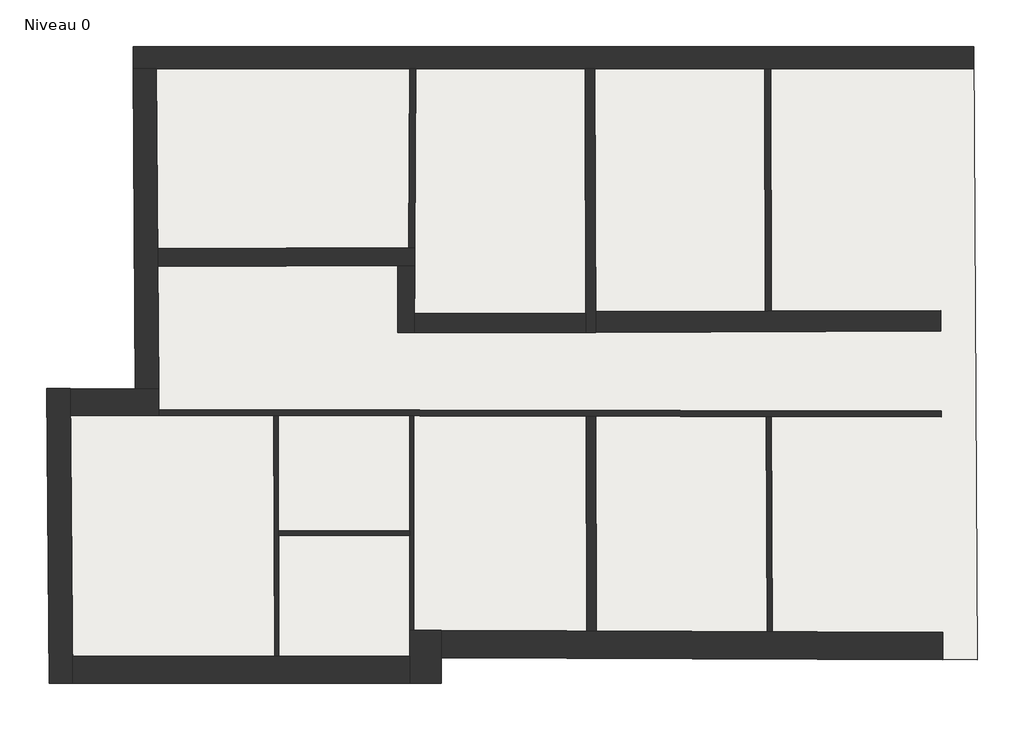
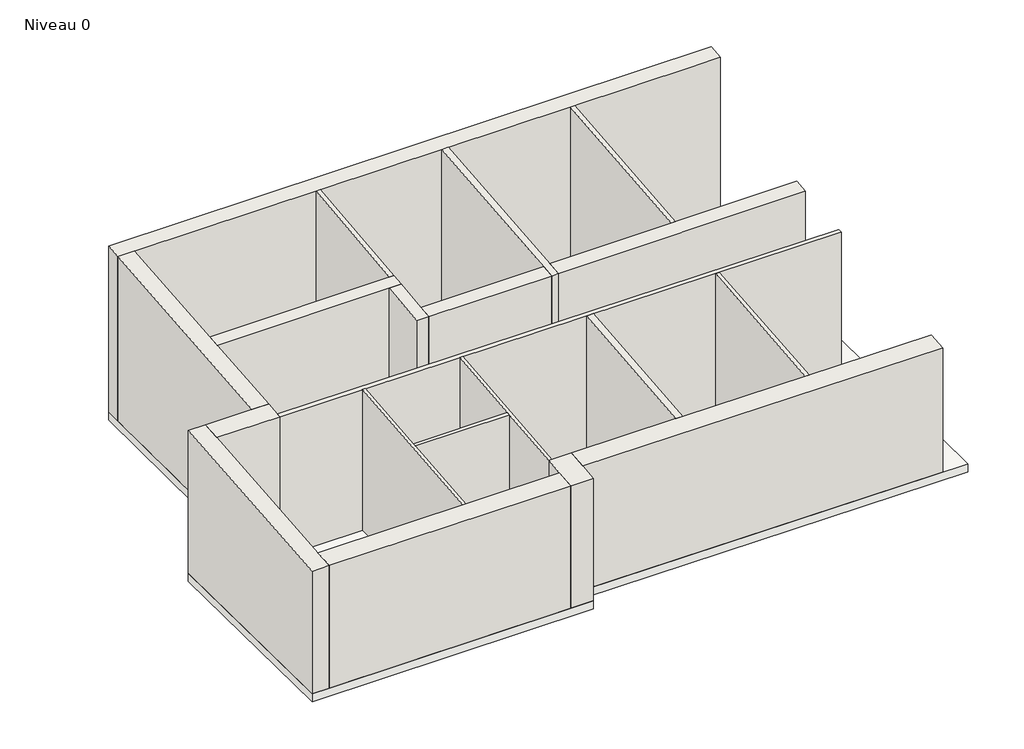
# One storey, incomplete: 20 walls, 1 slab.
"""IFC4 building model written with IfcOpenShell, lengths in millimetres."""

from ifc_helpers import new_model, si_unit, frame, origin, place, context, project, spatial, polyline, outline, extrude, faceted_brep, element, save

model = new_model("IFC4")

# Units and contexts
model_context = context("Model", 3, world=origin())
ifc_project = project(units=[si_unit("LENGTHUNIT", "METRE", prefix="MILLI")], contexts=[model_context])

# Site, building, storey
site = spatial("IfcSite", under=ifc_project)
building = spatial("IfcBuilding", under=site)
storey = spatial("IfcBuildingStorey", under=building, Name="Niveau 0", Elevation=-6410.0)

# Slab
placement = place(None, origin())
element("IfcSlab", 1, ObjectType="Dalle en béton - 200 mm", at=placement, inside=storey, context=model_context, shape_type="SweptSolid", body=[
    extrude(outline(polyline([(12066.9442856, -3188.2789077), (12131.5313386, -13488.9389346), (3133.3564391, -13453.9809737), (3133.3564391, -13883.8235957), (-3449.5992534, -13883.8235957), (-3493.2620245, -8933.4570138), (-2003.1638961, -8937.5430757), (-2040.7328837, -3188.2789077), (12066.9442856, -3188.2789077)])), frame((0.0, 0.0, -6610.0), z_axis=(0.0, 0.0, 1.0), x_axis=(1.0, 0.0, 0.0)), (0.0, 0.0, 1.0), 200.0),
])

# Walls
element("IfcWall", 2, ObjectType="4  - Ext. 530 mm", at=placement, inside=storey, context=model_context, shape_type="Brep", body=[
    faceted_brep([(2603.3564391, -12991.9184493, -6410.0), (2603.3564391, -13433.8235957, -6410.0), (2603.3564391, -13883.8235957, -6410.0), (2603.3564391, -13883.8235957, -3377.9454324), (2603.3564391, -13433.8235957, -3332.5095591), (2603.3564391, -12991.9184493, -3287.8910119), (3133.3564391, -12993.9775023, -6410.0), (3133.3564391, -12993.9775023, -3288.4344503), (3133.3564391, -13453.9809737, -3334.8803602), (3133.3564391, -13883.8235957, -3378.2809711), (3133.3564391, -13883.8235957, -6410.0), (3133.3564391, -13453.9809737, -6410.0), (2672.8982271, -12992.1886195, -6410.0)], [[[0, 1, 2, 3, 4, 5]], [[6, 7, 8, 9, 10, 11]], [[2, 1, 0, 12, 6, 11, 10]], [[0, 5, 7, 6, 12]], [[3, 2, 10, 9]], [[5, 4, 3, 9, 8, 7]]]),
])
element("IfcWall", 3, ObjectType="5  - Ext. 450 mm", at=placement, inside=storey, context=model_context, shape_type="Brep", body=[
    faceted_brep([(2603.3564391, -13433.8235957, -6410.0), (408.1214812, -13433.8235957, -6410.0), (338.1210356, -13433.8235957, -6410.0), (-3053.5527437, -13433.8235957, -6410.0), (-3053.5527437, -13433.8235957, -3328.9282155), (2603.3564391, -13433.8235957, -3332.5095591), (2603.3564391, -13883.8235957, -6410.0), (2603.3564391, -13883.8235957, -3377.9454324), (-3049.5836948, -13883.8235957, -3374.3666016), (-3049.5836948, -13883.8235957, -6410.0)], [[[0, 1, 2, 3, 4, 5]], [[6, 7, 8, 9]], [[3, 2, 1, 0, 6, 9]], [[0, 5, 7, 6]], [[5, 4, 8, 7]], [[4, 3, 9, 8]]]),
])
element("IfcWall", 4, ObjectType="6  - Ext. 400 mm", at=placement, inside=storey, context=model_context, shape_type="Brep", body=[
    faceted_brep([(-3049.5836948, -13883.8235957, -6410.0), (-3053.5527437, -13433.8235957, -6410.0), (-3089.2676311, -9384.566516, -6410.0), (-3093.236791, -8934.5539401, -6410.0), (-3093.236791, -8934.5539401, -2874.6181006), (-3089.2676311, -9384.566516, -2920.0577565), (-3053.5527437, -13433.8235957, -3328.9282155), (-3049.5836948, -13883.8235957, -3374.3666016), (-3449.5992534, -13883.8235957, -6410.0), (-3449.5992534, -13883.8235957, -3374.113355), (-3493.2620245, -8933.4570138, -2874.2540927), (-3493.2620245, -8933.4570138, -6410.0)], [[[0, 1, 2, 3, 4, 5, 6, 7]], [[8, 9, 10, 11]], [[3, 2, 1, 0, 8, 11]], [[4, 3, 11, 10]], [[0, 7, 9, 8]], [[7, 6, 5, 4, 10, 9]]]),
])
element("IfcWall", 5, ObjectType="1 - Ext. 370 mm", at=placement, inside=storey, context=model_context, shape_type="Brep", body=[
    faceted_brep([(-2038.3150916, -3558.2789077, -6410.0), (-1648.306765, -3558.2789077, -6410.0), (2603.2782826, -3558.2789077, -6410.0), (2703.2798859, -3558.2789077, -6410.0), (5545.2910773, -3558.2789077, -6410.0), (5705.2920439, -3558.2789077, -6410.0), (8558.2194581, -3558.2789077, -6410.0), (8658.2199193, -3558.2789077, -6410.0), (11489.252853, -3558.2789077, -6410.0), (12069.2642543, -3558.2789077, -6410.0), (12069.2642543, -3558.2789077, -2341.3823549), (11489.252853, -3558.2789077, -2341.0151544), (-1648.306765, -3558.2789077, -2332.6978713), (-2038.3150916, -3558.2789077, -2332.4509602), (-2040.7328837, -3188.2789077, -6410.0), (-2040.7328837, -3188.2789077, -2295.0910448), (12066.9442856, -3188.2789077, -2304.0225014), (12066.9442856, -3188.2789077, -6410.0)], [[[0, 1, 2, 3, 4, 5, 6, 7, 8, 9, 10, 11, 12, 13]], [[14, 15, 16, 17]], [[9, 8, 7, 6, 5, 4, 3, 2, 1, 0, 14, 17]], [[10, 9, 17, 16]], [[0, 13, 15, 14]], [[13, 12, 11, 10, 16, 15]]]),
])
element("IfcWall", 6, ObjectType="10 - Int. 300 mm", at=placement, inside=storey, context=model_context, shape_type="Brep", body=[
    faceted_brep([(-1626.5867828, -6882.1351932, -6410.0), (2405.0656219, -6866.7981078, -6410.0), (2685.0719626, -6865.7329165, -6410.0), (2685.0719626, -6865.7329165, -2669.3903236), (-1626.5867828, -6882.1351932, -2668.3167623), (-1628.5471202, -6582.1404799, -6410.0), (-1628.5471202, -6582.1404799, -2638.0254728), (2686.249909, -6565.7262646, -2639.0998155), (2686.249909, -6565.7262646, -6410.0), (2586.2461515, -6566.1066958, -6410.0)], [[[0, 1, 2, 3, 4]], [[5, 6, 7, 8, 9]], [[2, 1, 0, 5, 9, 8]], [[0, 4, 6, 5]], [[3, 2, 8, 7]], [[4, 3, 7, 6]]]),
])
element("IfcWall", 7, ObjectType="11 - Int. 280 mm", at=placement, inside=storey, context=model_context, shape_type="Brep", body=[
    faceted_brep([(2405.0656219, -6866.7981078, -6410.0), (2400.6393398, -7994.1109865, -6410.0), (2400.6393398, -7994.1109865, -2783.1410139), (2405.0656219, -6866.7981078, -2669.3206048), (2685.0719626, -6865.7329165, -6410.0), (2685.0719626, -6865.7329165, -2669.3903236), (2681.8979463, -7674.1109865, -2751.0091221), (2680.6414981, -7994.1109865, -2783.3182811), (2680.6414981, -7994.1109865, -6410.0), (2681.8979463, -7674.1109865, -6410.0)], [[[0, 1, 2, 3]], [[4, 5, 6, 7, 8, 9]], [[1, 0, 4, 9, 8]], [[0, 3, 5, 4]], [[2, 1, 8, 7]], [[3, 2, 7, 6, 5]]]),
])
element("IfcWall", 8, ObjectType="12 - Int. 320 mm", at=placement, inside=storey, context=model_context, shape_type="Brep", body=[
    faceted_brep([(2680.6414981, -7994.1109865, -6410.0), (5560.7096364, -7994.1109865, -6410.0), (5560.7096364, -7994.1109865, -2785.141629), (2680.6414981, -7994.1109865, -2783.3182811), (2681.8979463, -7674.1109865, -6410.0), (2681.8979463, -7674.1109865, -2751.0091221), (5559.5973447, -7674.1109865, -2752.8309704), (5559.5973447, -7674.1109865, -6410.0)], [[[0, 1, 2, 3]], [[4, 5, 6, 7]], [[1, 0, 4, 7]], [[0, 3, 5, 4]], [[2, 1, 7, 6]], [[3, 2, 6, 5]]]),
])
element("IfcWall", 9, ObjectType="12' - Int. 350 mm", at=placement, inside=storey, context=model_context, shape_type="Brep", body=[
    faceted_brep([(5720.6940005, -7989.334559, -6410.0), (11516.9155656, -7970.063997, -6410.0), (11516.9155656, -7970.063997, -2786.4844639), (5720.6940005, -7989.334559, -2784.7606445), (5719.4774389, -7639.3366693, -6410.0), (5719.4774389, -7639.3366693, -2749.4210748), (11514.7210341, -7620.0693588, -2751.1446033), (11514.7210341, -7620.0693588, -6410.0), (8670.5850136, -7629.5251911, -6410.0), (8570.5855621, -7629.857657, -6410.0)], [[[0, 1, 2, 3]], [[4, 5, 6, 7, 8, 9]], [[1, 0, 4, 9, 8, 7]], [[2, 1, 7, 6]], [[0, 3, 5, 4]], [[3, 2, 6, 5]]]),
])
element("IfcWall", 10, ObjectType="13 - Int. 100 mm", at=placement, inside=storey, context=model_context, shape_type="Brep", body=[
    faceted_brep([(-1610.2220159, -9386.4711904, -6410.0), (323.6932712, -9390.2988647, -6410.0), (393.6942112, -9390.437413, -6410.0), (2602.8982271, -9394.8099486, -6410.0), (2672.8982271, -9394.9484951, -6410.0), (5566.344245, -9400.6753068, -6410.0), (5726.3459711, -9400.991988, -6410.0), (8583.2658385, -9406.6465059, -6410.0), (8673.2676664, -9406.8246407, -6410.0), (11525.9597243, -9412.4707908, -6410.0), (11525.9597243, -9412.4707908, -2932.1279949), (-1610.2220159, -9386.4711904, -2921.1864407), (-1610.875483, -9286.4697012, -6410.0), (-1610.875483, -9286.4697012, -2911.0890159), (11525.3326967, -9312.4693539, -2922.0305921), (11525.3326967, -9312.4693539, -6410.0)], [[[0, 1, 2, 3, 4, 5, 6, 7, 8, 9, 10, 11]], [[12, 13, 14, 15]], [[9, 8, 7, 6, 5, 4, 3, 2, 1, 0, 12, 15]], [[10, 9, 15, 14]], [[0, 11, 13, 12]], [[11, 10, 14, 13]]]),
])
element("IfcWall", 11, ObjectType="14 - Int. 100 mm", at=placement, inside=storey, context=model_context, shape_type="Brep", body=[
    faceted_brep([(2603.2782826, -3558.2789077, -6410.0), (2586.2461515, -6566.1066958, -6410.0), (2586.2461515, -6566.1066958, -2639.0749156), (2603.2782826, -3558.2789077, -2335.3895155), (2703.2798859, -3558.2789077, -6410.0), (2703.2798859, -3558.2789077, -2335.4528257), (2686.249909, -6565.7262646, -2639.0998155), (2686.249909, -6565.7262646, -6410.0)], [[[0, 1, 2, 3]], [[4, 5, 6, 7]], [[1, 0, 4, 7]], [[0, 3, 5, 4]], [[2, 1, 7, 6]], [[3, 2, 6, 5]]]),
])
element("IfcWall", 12, ObjectType="15 - Int. 160 mm", at=placement, inside=storey, context=model_context, shape_type="Brep", body=[
    faceted_brep([(5720.7106029, -7994.1109865, -6410.0), (5720.6940005, -7989.334559, -6410.0), (5719.4774389, -7639.3366693, -6410.0), (5705.2920439, -3558.2789077, -6410.0), (5705.2920439, -3558.2789077, -2337.3533754), (5719.4774389, -7639.3366693, -2749.4210748), (5720.6940005, -7989.334559, -2784.7606445), (5720.7106029, -7994.1109865, -2785.2429243), (5560.7096364, -7994.1109865, -6410.0), (5560.7096364, -7994.1109865, -2785.141629), (5559.5973447, -7674.1109865, -2752.8309704), (5545.2910773, -3558.2789077, -2337.2520801), (5545.2910773, -3558.2789077, -6410.0), (5559.5973447, -7674.1109865, -6410.0)], [[[0, 1, 2, 3, 4, 5, 6, 7]], [[8, 9, 10, 11, 12, 13]], [[3, 2, 1, 0, 8, 13, 12]], [[4, 3, 12, 11]], [[0, 7, 9, 8]], [[7, 6, 5, 4, 11, 10, 9]]]),
])
element("IfcWall", 13, ObjectType="15 - Int.160 mm", at=placement, inside=storey, context=model_context, shape_type="Brep", body=[
    faceted_brep([(5566.344245, -9400.6753068, -6410.0), (5577.4047638, -13003.472644, -6410.0), (5577.4047638, -13003.472644, -3290.9404688), (5566.344245, -9400.6753068, -2927.1640368), (5726.3459711, -9400.991988, -6410.0), (5726.3459711, -9400.991988, -2927.2973074), (5737.4074261, -13004.0942552, -3291.1045285), (5737.4074261, -13004.0942552, -6410.0)], [[[0, 1, 2, 3]], [[4, 5, 6, 7]], [[1, 0, 4, 7]], [[2, 1, 7, 6]], [[0, 3, 5, 4]], [[3, 2, 6, 5]]]),
])
element("IfcWall", 14, ObjectType="16 - Int. 100 mm", at=placement, inside=storey, context=model_context, shape_type="Brep", body=[
    faceted_brep([(8670.5850136, -7629.5251911, -6410.0), (8658.2199193, -3558.2789077, -6410.0), (8658.2199193, -3558.2789077, -2339.2228503), (8670.5850136, -7629.5251911, -2750.298746), (8570.5855621, -7629.857657, -6410.0), (8570.5855621, -7629.857657, -2750.2690057), (8558.2194581, -3558.2789077, -2339.1595408), (8558.2194581, -3558.2789077, -6410.0)], [[[0, 1, 2, 3]], [[4, 5, 6, 7]], [[1, 0, 4, 7]], [[2, 1, 7, 6]], [[0, 3, 5, 4]], [[3, 2, 6, 5]]]),
])
element("IfcWall", 15, ObjectType="17 - Int. 90 mm", at=placement, inside=storey, context=model_context, shape_type="Brep", body=[
    faceted_brep([(8690.2086944, -13015.565905, -6410.0), (8673.2676664, -9406.8246407, -6410.0), (8673.2676664, -9406.8246407, -2929.7518946), (8690.2086944, -13015.565905, -3294.1321996), (8600.2060612, -13015.2162443, -6410.0), (8600.2060612, -13015.2162443, -3294.0399149), (8583.2658385, -9406.6465059, -2929.6769292), (8583.2658385, -9406.6465059, -6410.0)], [[[0, 1, 2, 3]], [[4, 5, 6, 7]], [[1, 0, 4, 7]], [[0, 3, 5, 4]], [[2, 1, 7, 6]], [[3, 2, 6, 5]]]),
])
element("IfcWall", 16, ObjectType="19 - Int.70 mm", at=placement, inside=storey, context=model_context, shape_type="Brep", body=[
    faceted_brep([(2672.8982271, -12992.1886195, -6410.0), (2672.8982271, -9394.9484951, -6410.0), (2672.8982271, -9394.9484951, -2924.7539912), (2672.8982271, -12992.1886195, -3287.9623169), (2602.8982271, -12991.9166691, -6410.0), (2602.8982271, -12991.9166691, -3287.890542), (2602.8982271, -11400.1820693, -3127.1753162), (2602.8982271, -11320.1818991, -3119.0978104), (2602.8982271, -9394.8099486, -2924.6956859), (2602.8982271, -9394.8099486, -6410.0), (2602.8982271, -11320.1818991, -6410.0), (2602.8982271, -11400.1820693, -6410.0), (2603.3564391, -12991.9184493, -6410.0)], [[[0, 1, 2, 3]], [[4, 5, 6, 7, 8, 9, 10, 11]], [[1, 0, 12, 4, 11, 10, 9]], [[2, 1, 9, 8]], [[0, 3, 5, 4, 12]], [[3, 2, 8, 7, 6, 5]]]),
])
element("IfcWall", 17, ObjectType="20 - Int.70 mm", at=placement, inside=storey, context=model_context, shape_type="Brep", body=[
    faceted_brep([(408.1214812, -13433.8235957, -6410.0), (400.8814217, -11404.7247821, -6410.0), (400.5959739, -11324.7252008, -6410.0), (393.6942112, -9390.437413, -6410.0), (393.6942112, -9390.437413, -2922.8555679), (400.5959739, -11324.7252008, -3118.1622815), (400.8814217, -11404.7247821, -3126.2399085), (408.1214812, -13433.8235957, -3331.1197736), (338.1210356, -13433.8235957, -6410.0), (338.1210356, -13433.8235957, -3331.0754568), (323.6932712, -9390.2988647, -2922.7972618), (323.6932712, -9390.2988647, -6410.0)], [[[0, 1, 2, 3, 4, 5, 6, 7]], [[8, 9, 10, 11]], [[3, 2, 1, 0, 8, 11]], [[0, 7, 9, 8]], [[4, 3, 11, 10]], [[7, 6, 5, 4, 10, 9]]]),
])
element("IfcWall", 18, ObjectType="3 - Ext. 460 mm", at=placement, inside=storey, context=model_context, shape_type="Brep", body=[
    faceted_brep([(11548.6214305, -13026.6708548, -6410.0), (8690.2086944, -13015.565905, -6410.0), (8600.2060612, -13015.2162443, -6410.0), (5737.4074261, -13004.0942552, -6410.0), (5577.4047638, -13003.472644, -6410.0), (3133.3564391, -12993.9775023, -6410.0), (3133.3564391, -12993.9775023, -3288.4344503), (5577.4047638, -13003.472644, -3290.9404688), (5737.4074261, -13004.0942552, -3291.1045285), (11548.6214305, -13026.6708548, -3297.063089), (11551.505808, -13486.6855321, -6410.0), (11551.505808, -13486.6855321, -3343.5119564), (3133.3564391, -13453.9809737, -3334.8803602), (3133.3564391, -13453.9809737, -6410.0)], [[[0, 1, 2, 3, 4, 5, 6, 7, 8, 9]], [[10, 11, 12, 13]], [[5, 4, 3, 2, 1, 0, 10, 13]], [[0, 9, 11, 10]], [[6, 5, 13, 12]], [[9, 8, 7, 6, 12, 11]]]),
])
element("IfcWall", 19, ObjectType="7 - Ext. 450 mm", at=placement, inside=storey, context=model_context, shape_type="Brep", body=[
    faceted_brep([(-3089.2676311, -9384.566516, -6410.0), (-1610.2079593, -9388.6223089, -6410.0), (-1610.2079593, -9388.6223089, -2921.403645), (-3089.2676311, -9384.566516, -2920.0577565), (-3093.236791, -8934.5539401, -6410.0), (-3093.236791, -8934.5539401, -2874.6181006), (-2003.1638961, -8937.5430757, -2875.6100258), (-1613.148581, -8938.6125534, -2875.964925), (-1613.148581, -8938.6125534, -6410.0), (-2003.1638961, -8937.5430757, -6410.0), (-1610.875483, -9286.4697012, -6410.0), (-1610.2220159, -9386.4711904, -6410.0), (-1610.875483, -9286.4697012, -2911.0890159), (-1610.2220159, -9386.4711904, -2921.1864407)], [[[0, 1, 2, 3]], [[4, 5, 6, 7, 8, 9]], [[1, 0, 4, 9, 8, 10, 11]], [[2, 1, 11, 10, 8, 7, 12, 13]], [[3, 2, 13, 12, 7, 6, 5]], [[0, 3, 5, 4]]]),
])
element("IfcWall", 20, ObjectType="8 - Ext. 390 mm", at=placement, inside=storey, context=model_context, shape_type="Brep", body=[
    faceted_brep([(-2038.3150916, -3558.2789077, -6410.0), (-2003.1638961, -8937.5430757, -6410.0), (-2003.1638961, -8937.5430757, -2875.6100258), (-2038.3150916, -3558.2789077, -2332.4509602), (-1648.306765, -3558.2789077, -6410.0), (-1648.306765, -3558.2789077, -2332.6978713), (-1628.5471202, -6582.1404799, -2638.0254728), (-1626.5867828, -6882.1351932, -2668.3167623), (-1613.148581, -8938.6125534, -2875.964925), (-1613.148581, -8938.6125534, -6410.0), (-1626.5867828, -6882.1351932, -6410.0), (-1628.5471202, -6582.1404799, -6410.0)], [[[0, 1, 2, 3]], [[4, 5, 6, 7, 8, 9, 10, 11]], [[1, 0, 4, 11, 10, 9]], [[0, 3, 5, 4]], [[2, 1, 9, 8]], [[3, 2, 8, 7, 6, 5]]]),
])
element("IfcWall", 21, ObjectType="9 - Int.80 mm", at=placement, inside=storey, context=model_context, shape_type="Brep", body=[
    faceted_brep([(400.8814217, -11404.7247821, -6410.0), (2602.8982271, -11400.1820693, -6410.0), (2602.8982271, -11400.1820693, -3127.1753162), (400.8814217, -11404.7247821, -3126.2399085), (400.5959739, -11324.7252008, -6410.0), (400.5959739, -11324.7252008, -3118.1622815), (2602.8982271, -11320.1818991, -3119.0978104), (2602.8982271, -11320.1818991, -6410.0)], [[[0, 1, 2, 3]], [[4, 5, 6, 7]], [[1, 0, 4, 7]], [[2, 1, 7, 6]], [[0, 3, 5, 4]], [[3, 2, 6, 5]]]),
])

save(model, "model.ifc")
